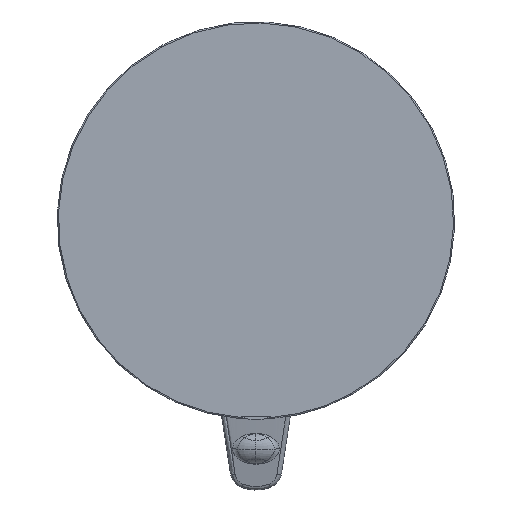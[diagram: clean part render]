
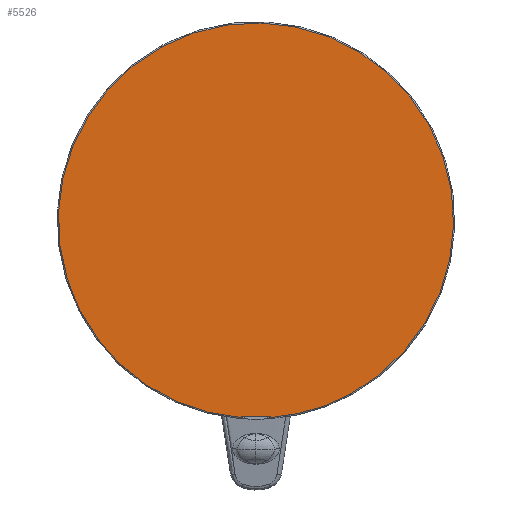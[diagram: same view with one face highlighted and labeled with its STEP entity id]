
A CAD part, left-side view. The second image highlights one B-rep face of the part: STEP entity #5526.
In plain terms, the highlighted planar face has unit normal (-1, 0, 0).
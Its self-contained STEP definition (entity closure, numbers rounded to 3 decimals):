
#563=CARTESIAN_POINT('',(59.,6.,-84.287));
#577=CARTESIAN_POINT('',(59.,0.,0.));
#578=DIRECTION('',(-1.,0.,0.));
#579=DIRECTION('',(0.,0.072,-0.997));
#580=AXIS2_PLACEMENT_3D('',#577,#578,#579);
#582=DIRECTION('',(0.,0.,1.));
#583=VECTOR('',#582,0.623);
#584=CARTESIAN_POINT('',(59.,6.,-84.287));
#585=LINE('',#584,#583);
#586=CARTESIAN_POINT('',(59.,0.,0.));
#587=DIRECTION('',(-1.,0.,0.));
#588=DIRECTION('',(0.,0.479,0.878));
#589=AXIS2_PLACEMENT_3D('',#586,#587,#588);
#591=CARTESIAN_POINT('',(59.,0.,0.));
#592=DIRECTION('',(1.,0.,0.));
#593=DIRECTION('',(0.,0.479,0.878));
#594=AXIS2_PLACEMENT_3D('',#591,#592,#593);
#596=CARTESIAN_POINT('',(59.,0.,0.));
#597=DIRECTION('',(-1.,0.,0.));
#598=DIRECTION('',(0.,-0.071,-0.997));
#599=AXIS2_PLACEMENT_3D('',#596,#597,#598);
#604=CARTESIAN_POINT('',(59.,-6.,-83.663));
#606=DIRECTION('',(0.,0.,1.));
#607=VECTOR('',#606,0.623);
#608=CARTESIAN_POINT('',(59.,-6.,-84.287));
#609=LINE('',#608,#607);
#620=CARTESIAN_POINT('',(59.,-6.,-84.287));
#699=CARTESIAN_POINT('',(59.,6.,-83.663));
#4524=VERTEX_POINT('',#620);
#4530=VERTEX_POINT('',#563);
#4532=CARTESIAN_POINT('',(59.,-40.512,-74.156));
#4533=VERTEX_POINT('',#4532);
#4534=CARTESIAN_POINT('',(59.,40.512,74.156));
#4535=VERTEX_POINT('',#4534);
#4559=VERTEX_POINT('',#604);
#4564=VERTEX_POINT('',#699);
#5508=CARTESIAN_POINT('',(59.,0.,83.));
#5509=DIRECTION('',(-1.,0.,0.));
#5510=DIRECTION('',(0.,1.,0.));
#5511=AXIS2_PLACEMENT_3D('',#5508,#5509,#5510);
#5512=PLANE('',#5511);
#5514=ORIENTED_EDGE('',*,*,#5513,.T.);
#5516=ORIENTED_EDGE('',*,*,#5515,.F.);
#5518=ORIENTED_EDGE('',*,*,#5517,.F.);
#5519=ORIENTED_EDGE('',*,*,#5494,.F.);
#5521=ORIENTED_EDGE('',*,*,#5520,.T.);
#5523=ORIENTED_EDGE('',*,*,#5522,.F.);
#5524=EDGE_LOOP('',(#5514,#5516,#5518,#5519,#5521,#5523));
#5525=FACE_OUTER_BOUND('',#5524,.F.);
#5526=ADVANCED_FACE('',(#5525),#5512,.T.);
#581=CIRCLE('',#580,83.878);
#590=CIRCLE('',#589,84.5);
#595=CIRCLE('',#594,84.5);
#600=CIRCLE('',#599,84.5);
#5494=EDGE_CURVE('',#4535,#4530,#590,.T.);
#5513=EDGE_CURVE('',#4524,#4559,#609,.T.);
#5515=EDGE_CURVE('',#4564,#4559,#581,.T.);
#5517=EDGE_CURVE('',#4530,#4564,#585,.T.);
#5520=EDGE_CURVE('',#4535,#4533,#595,.T.);
#5522=EDGE_CURVE('',#4524,#4533,#600,.T.);
